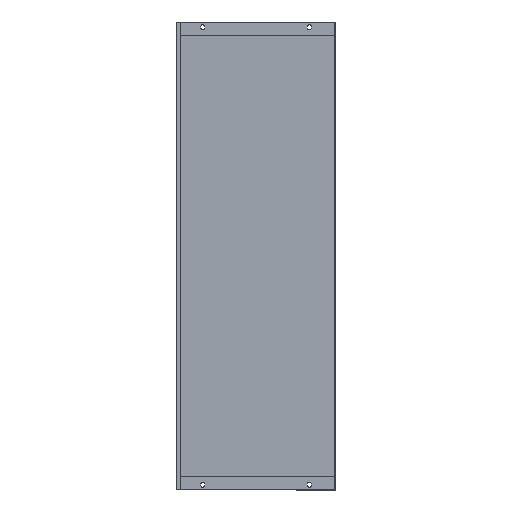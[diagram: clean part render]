
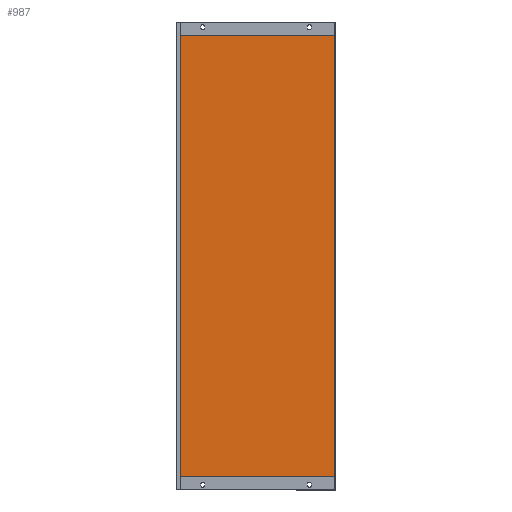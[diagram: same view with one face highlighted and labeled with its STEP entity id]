
A CAD part, front view. The second image highlights one B-rep face of the part: STEP entity #987.
In plain terms, the highlighted planar face has unit normal (0, -1, 0).
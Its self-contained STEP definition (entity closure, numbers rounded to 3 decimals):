
#38 = EDGE_CURVE ( 'NONE', #1056, #842, #168, .T. ) ;
#76 = DIRECTION ( 'NONE',  ( 1., 0., 0. ) ) ;
#90 = VERTEX_POINT ( 'NONE', #1049 ) ;
#132 = EDGE_CURVE ( 'NONE', #90, #1283, #407, .T. ) ;
#150 = EDGE_CURVE ( 'NONE', #90, #1056, #549, .T. ) ;
#165 = LINE ( 'NONE', #844, #985 ) ;
#168 = LINE ( 'NONE', #602, #1034 ) ;
#191 = CARTESIAN_POINT ( 'NONE',  ( 288.6, 61.1, 879. ) ) ;
#236 = PLANE ( 'NONE',  #812 ) ;
#342 = ORIENTED_EDGE ( 'NONE', *, *, #150, .T. ) ;
#407 = LINE ( 'NONE', #191, #1147 ) ;
#446 = CARTESIAN_POINT ( 'NONE',  ( 0., 61.1, 854. ) ) ;
#481 = EDGE_CURVE ( 'NONE', #842, #1283, #165, .T. ) ;
#509 = DIRECTION ( 'NONE',  ( 0., 0., -1. ) ) ;
#549 = LINE ( 'NONE', #446, #581 ) ;
#581 = VECTOR ( 'NONE', #1202, 1000. ) ;
#602 = CARTESIAN_POINT ( 'NONE',  ( -6.6, 61.1, 879. ) ) ;
#623 = CARTESIAN_POINT ( 'NONE',  ( 288.6, 61.1, 25. ) ) ;
#628 = CARTESIAN_POINT ( 'NONE',  ( -8., 61.1, 879. ) ) ;
#644 = ORIENTED_EDGE ( 'NONE', *, *, #132, .F. ) ;
#701 = CARTESIAN_POINT ( 'NONE',  ( -6.6, 61.1, 25. ) ) ;
#714 = ORIENTED_EDGE ( 'NONE', *, *, #38, .T. ) ;
#812 = AXIS2_PLACEMENT_3D ( 'NONE', #628, #1284, #981 ) ;
#820 = EDGE_LOOP ( 'NONE', ( #850, #644, #342, #714 ) ) ;
#842 = VERTEX_POINT ( 'NONE', #701 ) ;
#844 = CARTESIAN_POINT ( 'NONE',  ( 0., 61.1, 25. ) ) ;
#850 = ORIENTED_EDGE ( 'NONE', *, *, #481, .T. ) ;
#981 = DIRECTION ( 'NONE',  ( 0., 0., 1. ) ) ;
#985 = VECTOR ( 'NONE', #76, 1000. ) ;
#987 = ADVANCED_FACE ( 'NONE', ( #1321 ), #236, .F. ) ;
#1034 = VECTOR ( 'NONE', #509, 1000. ) ;
#1049 = CARTESIAN_POINT ( 'NONE',  ( 288.6, 61.1, 854. ) ) ;
#1056 = VERTEX_POINT ( 'NONE', #1352 ) ;
#1147 = VECTOR ( 'NONE', #1397, 1000. ) ;
#1202 = DIRECTION ( 'NONE',  ( -1., 0., 0. ) ) ;
#1283 = VERTEX_POINT ( 'NONE', #623 ) ;
#1284 = DIRECTION ( 'NONE',  ( 0., 1., 0. ) ) ;
#1321 = FACE_OUTER_BOUND ( 'NONE', #820, .T. ) ;
#1352 = CARTESIAN_POINT ( 'NONE',  ( -6.6, 61.1, 854. ) ) ;
#1397 = DIRECTION ( 'NONE',  ( 0., 0., -1. ) ) ;
